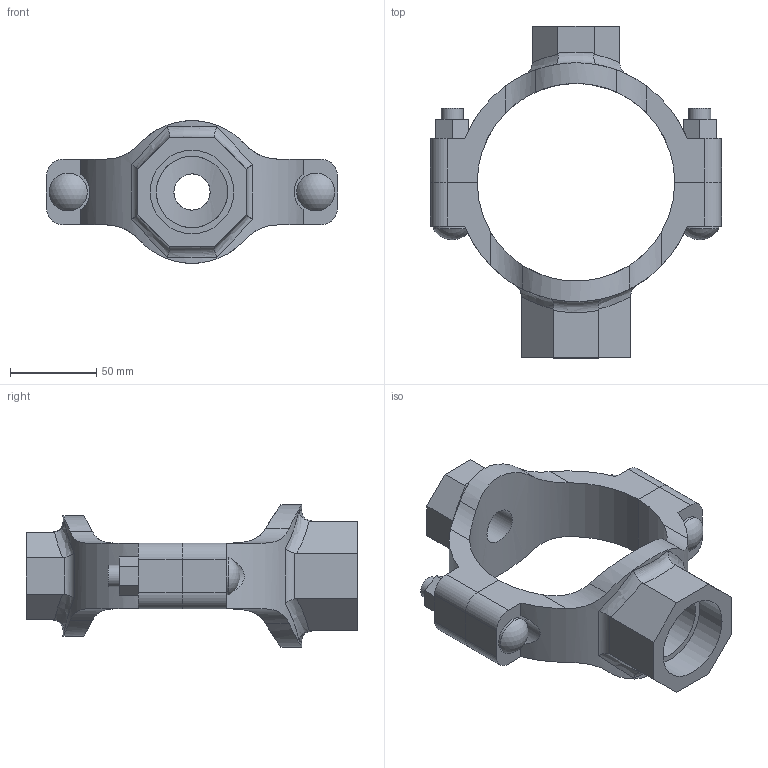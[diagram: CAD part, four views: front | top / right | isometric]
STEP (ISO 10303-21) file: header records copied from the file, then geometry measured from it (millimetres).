
FILE_DESCRIPTION(/* description */ ('VIC MECH-T BRANCH OUTLET CROSS STYLE 920N (THD)','CAx-IF Rec.Pracs.---Representation and Presentation of Product Manufacturing Information (PMI)---4.0---2014-10-13'),/* implementation_level */ '2;1');
FILE_NAME(/* name */ 'C:\Users\Vjadhav\AppData\Roaming\Autodesk\ApplicationPlugins\Back Up\Victaulic_IPS_Mechanical-Cross Outlet_Style 920N (FPT)\Victaulic_IPS_Mechanical-Cross Outlet_04.0x0.75x01.5 (100x20x40).stp',/* time_stamp */ '2020-08-06T18:58:13+05:00',/* author */ ('Vjadhav'),/* organization */ ('Victaulic'),/* preprocessor_version */ 'ST-DEVELOPER v17.2',/* originating_system */ 'Autodesk Inventor 2019',/* authorisation */ '');
FILE_SCHEMA (('AP242_MANAGED_MODEL_BASED_3D_ENGINEERING_MIM_LF { 1 0 10303 442 1 1 4 }'));
Length unit declared in the file: inch
Products named in the file (3): 920NT-04.0x0.75x01.5; 920NT-04.0x0.75; 920NT-04.0x01.5
Assembly tree (2 placements, depth 2):
  920NT-04.0x0.75x01.5
    920NT-04.0x0.75
    920NT-04.0x01.5
Bounding box: 168.4 x 192.02 x 82.42 mm (x, y, z)
Volume: 369385 mm3; surface area: 86392.6 mm2
Topology: 2 solids, 2 shells, 132 faces, 350 edges, 236 vertices
Faces by surface type: plane 68, cylinder 50, bspline 8, torus 4, sphere 2
Full cylindrical faces by diameter (mm): 12.7 x4, 20.93 x1, 21.982 x2, 26.67 x1, 41.275 x1, 48.26 x1
Entity records: 5268 total; most frequent: CARTESIAN_POINT 1755, ORIENTED_EDGE 700, DIRECTION 648, EDGE_CURVE 350, VERTEX_POINT 236, AXIS2_PLACEMENT_3D 231, LINE 186, VECTOR 186
